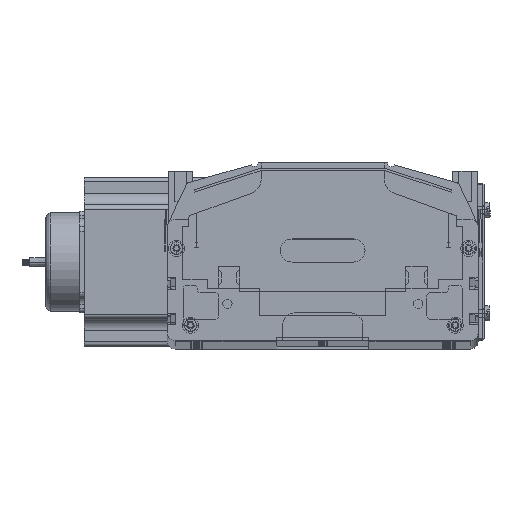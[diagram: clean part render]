
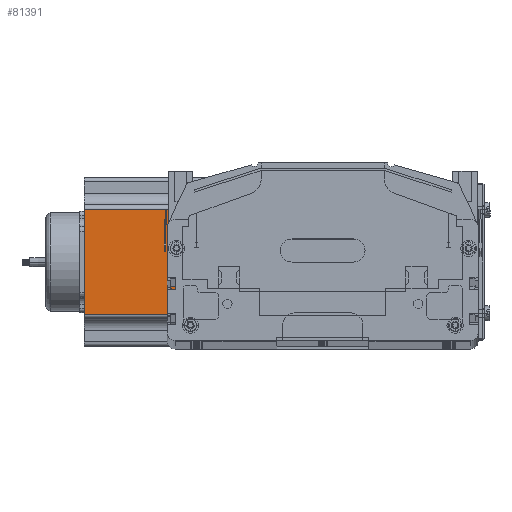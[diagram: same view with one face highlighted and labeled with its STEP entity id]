
A CAD part, top view. The second image highlights one B-rep face of the part: STEP entity #81391.
In plain terms, the highlighted planar face has unit normal (0, 0, 1) as drawn and (0, -1, 0) by its records, which use the part's own axes.
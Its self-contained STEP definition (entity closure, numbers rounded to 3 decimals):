
#2352 = CARTESIAN_POINT ( 'NONE',  ( 88.952, 0., 0. ) ) ;
#2439 = DIRECTION ( 'NONE',  ( 0., 0., -1. ) ) ;
#2449 = VECTOR ( 'NONE', #2439, 1000. ) ;
#2450 = CARTESIAN_POINT ( 'NONE',  ( 21.048, 0., 160.5 ) ) ;
#2452 = LINE ( 'NONE', #2450, #2449 ) ;
#2711 = CARTESIAN_POINT ( 'NONE',  ( 21.048, 0., 0. ) ) ;
#2730 = CARTESIAN_POINT ( 'NONE',  ( 88.952, 0., 160.5 ) ) ;
#2746 = CARTESIAN_POINT ( 'NONE',  ( 0., 0., 160.5 ) ) ;
#2766 = DIRECTION ( 'NONE',  ( 1., 0., 0. ) ) ;
#2767 = VECTOR ( 'NONE', #2766, 1000. ) ;
#2771 = CARTESIAN_POINT ( 'NONE',  ( 0., 0., 160.5 ) ) ;
#2772 = LINE ( 'NONE', #2771, #2767 ) ;
#2775 = CARTESIAN_POINT ( 'NONE',  ( 21.048, 0., 160.5 ) ) ;
#2783 = DIRECTION ( 'NONE',  ( 0., 0., 1. ) ) ;
#2784 = VECTOR ( 'NONE', #2783, 1000. ) ;
#2785 = CARTESIAN_POINT ( 'NONE',  ( 88.952, 0., 160.5 ) ) ;
#2786 = LINE ( 'NONE', #2785, #2784 ) ;
#2802 = PLANE ( 'NONE',  #2902 ) ;
#2896 = DIRECTION ( 'NONE',  ( 0., 0., 1. ) ) ;
#2902 = AXIS2_PLACEMENT_3D ( 'NONE', #2746, #2906, #2896 ) ;
#2903 = DIRECTION ( 'NONE',  ( 1., 0., 0. ) ) ;
#2904 = VECTOR ( 'NONE', #2903, 1000. ) ;
#2905 = CARTESIAN_POINT ( 'NONE',  ( 0., 0., 0. ) ) ;
#2906 = DIRECTION ( 'NONE',  ( 0., 1., 0. ) ) ;
#2916 = LINE ( 'NONE', #2905, #2904 ) ;
#2920 = FACE_OUTER_BOUND ( 'NONE', #81291, .T. ) ;
#81288 = ORIENTED_EDGE ( 'NONE', *, *, #81464, .F. ) ;
#81289 = EDGE_CURVE ( 'NONE', #81462, #81493, #2452, .T. ) ;
#81291 = EDGE_LOOP ( 'NONE', ( #81293, #81463, #81288, #81390 ) ) ;
#81293 = ORIENTED_EDGE ( 'NONE', *, *, #81389, .T. ) ;
#81389 = EDGE_CURVE ( 'NONE', #81493, #81497, #2916, .T. ) ;
#81390 = ORIENTED_EDGE ( 'NONE', *, *, #81289, .T. ) ;
#81391 = ADVANCED_FACE ( 'NONE', ( #2920 ), #2802, .F. ) ;
#81457 = EDGE_CURVE ( 'NONE', #81497, #81492, #2786, .T. ) ;
#81462 = VERTEX_POINT ( 'NONE', #2775 ) ;
#81463 = ORIENTED_EDGE ( 'NONE', *, *, #81457, .T. ) ;
#81464 = EDGE_CURVE ( 'NONE', #81462, #81492, #2772, .T. ) ;
#81492 = VERTEX_POINT ( 'NONE', #2730 ) ;
#81493 = VERTEX_POINT ( 'NONE', #2711 ) ;
#81497 = VERTEX_POINT ( 'NONE', #2352 ) ;
